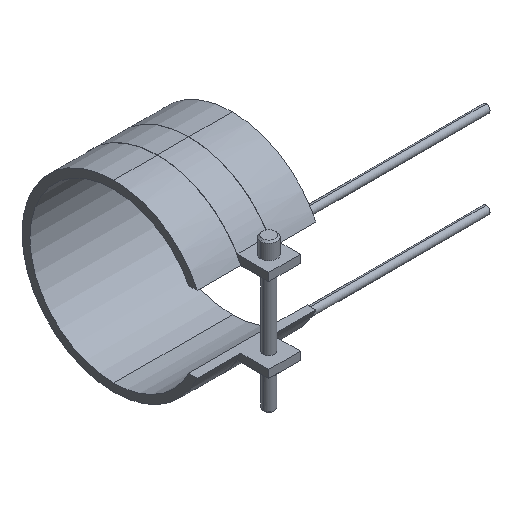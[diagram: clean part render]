
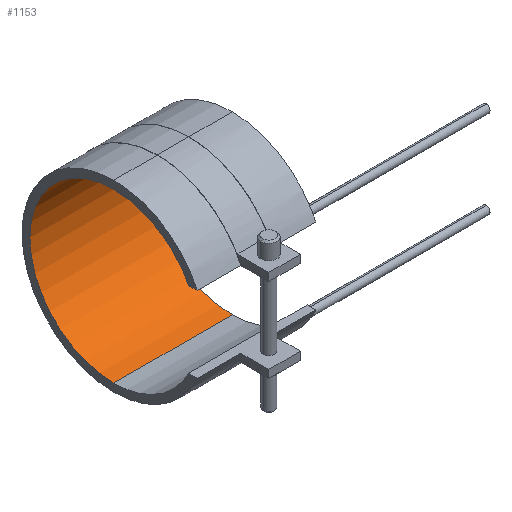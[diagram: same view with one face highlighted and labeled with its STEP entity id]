
A CAD part, isometric view. The second image highlights one B-rep face of the part: STEP entity #1153.
In plain terms, the highlighted cylindrical face has radius 42.5 mm (diameter 85 mm), a partial arc.
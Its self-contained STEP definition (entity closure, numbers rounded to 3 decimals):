
#834=CARTESIAN_POINT('Vertex',(-30.,0.,-42.5)) ;
#841=CARTESIAN_POINT('Vertex',(30.,0.,-42.5)) ;
#844=CARTESIAN_POINT('Line Origine',(30.,0.,-42.5)) ;
#862=CARTESIAN_POINT('Axis2P3D Location',(-30.,0.,0.)) ;
#866=CARTESIAN_POINT('Vertex',(-30.,0.,42.5)) ;
#923=CARTESIAN_POINT('Vertex',(30.,0.,42.5)) ;
#933=CARTESIAN_POINT('Line Origine',(30.,0.,42.5)) ;
#1024=CARTESIAN_POINT('Axis2P3D Location',(30.,0.,0.)) ;
#1142=CARTESIAN_POINT('Axis2P3D Location',(30.,0.,0.)) ;
#845=DIRECTION('Vector Direction',(1.,0.,0.)) ;
#863=DIRECTION('Axis2P3D Direction',(1.,0.,0.)) ;
#934=DIRECTION('Vector Direction',(1.,0.,0.)) ;
#1025=DIRECTION('Axis2P3D Direction',(1.,0.,0.)) ;
#1143=DIRECTION('Axis2P3D Direction',(1.,0.,-0.)) ;
#1144=DIRECTION('Axis2P3D XDirection',(0.,0.,-1.)) ;
#864=AXIS2_PLACEMENT_3D('Circle Axis2P3D',#862,#863,$) ;
#1026=AXIS2_PLACEMENT_3D('Circle Axis2P3D',#1024,#1025,$) ;
#1145=AXIS2_PLACEMENT_3D('Cylinder Axis2P3D',#1142,#1143,#1144) ;
#1148=ORIENTED_EDGE('',*,*,#1028,.T.) ;
#1149=ORIENTED_EDGE('',*,*,#937,.T.) ;
#1150=ORIENTED_EDGE('',*,*,#868,.F.) ;
#1151=ORIENTED_EDGE('',*,*,#848,.T.) ;
#846=VECTOR('Line Direction',#845,1.) ;
#935=VECTOR('Line Direction',#934,1.) ;
#1153=ADVANCED_FACE('14085060',(#1152),#1146,.F.) ;
#865=CIRCLE('generated circle',#864,42.5) ;
#1027=CIRCLE('generated circle',#1026,42.5) ;
#1146=CYLINDRICAL_SURFACE('generated cylinder',#1145,42.5) ;
#848=EDGE_CURVE('',#835,#842,#847,.T.) ;
#868=EDGE_CURVE('',#835,#867,#865,.T.) ;
#937=EDGE_CURVE('',#924,#867,#936,.F.) ;
#1028=EDGE_CURVE('',#842,#924,#1027,.T.) ;
#1147=EDGE_LOOP('',(#1148,#1149,#1150,#1151)) ;
#1152=FACE_OUTER_BOUND('',#1147,.T.) ;
#847=LINE('Line',#844,#846) ;
#936=LINE('Line',#933,#935) ;
#835=VERTEX_POINT('',#834) ;
#842=VERTEX_POINT('',#841) ;
#867=VERTEX_POINT('',#866) ;
#924=VERTEX_POINT('',#923) ;
